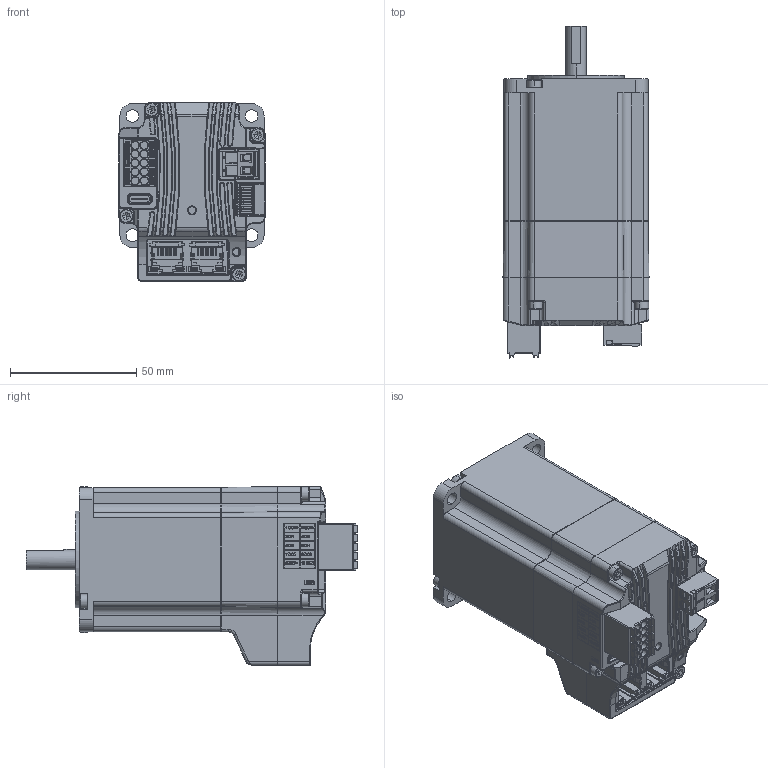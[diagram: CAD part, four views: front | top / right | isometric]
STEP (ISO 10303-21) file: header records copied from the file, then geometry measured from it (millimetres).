
FILE_DESCRIPTION((''),'2;1');
FILE_NAME('570001','2026-01-13T18:03:07',('ruiwe'),(''),'CREO PARAMETRIC BY PTC INC, 2021063','CREO PARAMETRIC BY PTC INC, 2021063','');
FILE_SCHEMA(('CONFIG_CONTROL_DESIGN','SHAPE_APPEARANCE_LAYERS_GROUPS'));
Products named in the file (1): 570001
Bounding box: 57.77 x 131.3 x 70.77 mm (x, y, z)
Volume: 178647.6 mm3; surface area: 85065.3 mm2
Topology: 12 solids, 211 shells, 4383 faces, 13406 edges, 9369 vertices
Faces by surface type: plane 2313, cylinder 1165, torus 345, bspline 282, cone 215, sphere 57, extrusion 6
Entity records: 208077 total; most frequent: CARTESIAN_POINT 54001, ORIENTED_EDGE 23907, DIRECTION 21644, EDGE_CURVE 13384, PRESENTATION_STYLE_ASSIGNMENT 11079, STYLED_ITEM 10924, CURVE_STYLE 9610, VERTEX_POINT 9445
